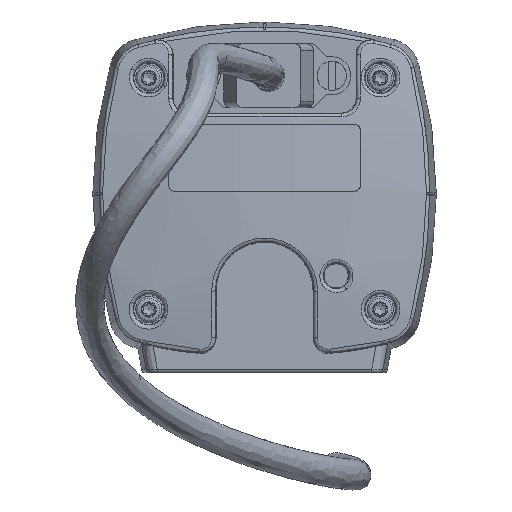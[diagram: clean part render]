
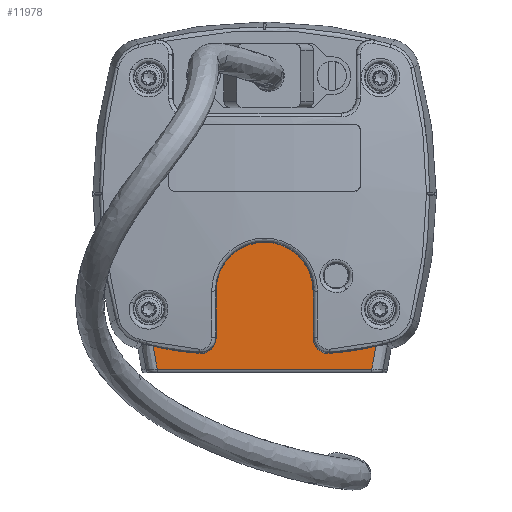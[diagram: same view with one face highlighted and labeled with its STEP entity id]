
A CAD part, left-side view. The second image highlights one B-rep face of the part: STEP entity #11978.
In plain terms, the highlighted planar face has unit normal (-1, 0, 0).
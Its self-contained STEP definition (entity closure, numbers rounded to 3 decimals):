
#643=ELLIPSE('',#13112,2.031,2.001);
#648=ELLIPSE('',#13126,2.031,2.001);
#649=ELLIPSE('',#13128,49.312,45.3);
#650=ELLIPSE('',#13129,49.312,45.3);
#1302=LINE('',#26356,#1908);
#1304=LINE('',#26364,#1910);
#1308=LINE('',#26925,#1914);
#1309=LINE('',#26927,#1915);
#1310=LINE('',#26929,#1916);
#1908=VECTOR('',#15540,1000.);
#1910=VECTOR('',#15550,1000.);
#1914=VECTOR('',#15588,10.);
#1915=VECTOR('',#15589,1000.);
#1916=VECTOR('',#15590,10.);
#2783=FACE_OUTER_BOUND('',#3598,.T.);
#3598=EDGE_LOOP('',(#8985,#8986,#8987,#8988,#8989,#8990,#8991,#8992,#8993,
#8994));
#4322=CIRCLE('',#13108,6.5);
#5206=VERTEX_POINT('',#26352);
#5207=VERTEX_POINT('',#26354);
#5208=VERTEX_POINT('',#26358);
#5209=VERTEX_POINT('',#26362);
#5210=VERTEX_POINT('',#26377);
#5223=VERTEX_POINT('',#26919);
#5224=VERTEX_POINT('',#26923);
#5225=VERTEX_POINT('',#26924);
#5226=VERTEX_POINT('',#26926);
#5227=VERTEX_POINT('',#26928);
#6569=EDGE_CURVE('',#5206,#5207,#1302,.T.);
#6571=EDGE_CURVE('',#5208,#5206,#4322,.T.);
#6573=EDGE_CURVE('',#5209,#5208,#1304,.T.);
#6575=EDGE_CURVE('',#5210,#5209,#643,.T.);
#6598=EDGE_CURVE('',#5207,#5223,#648,.T.);
#6599=EDGE_CURVE('',#5224,#5225,#1308,.T.);
#6600=EDGE_CURVE('',#5225,#5226,#1309,.T.);
#6601=EDGE_CURVE('',#5226,#5227,#1310,.T.);
#6602=EDGE_CURVE('',#5227,#5210,#649,.T.);
#6603=EDGE_CURVE('',#5223,#5224,#650,.T.);
#8985=ORIENTED_EDGE('',*,*,#6599,.T.);
#8986=ORIENTED_EDGE('',*,*,#6600,.T.);
#8987=ORIENTED_EDGE('',*,*,#6601,.T.);
#8988=ORIENTED_EDGE('',*,*,#6602,.T.);
#8989=ORIENTED_EDGE('',*,*,#6575,.T.);
#8990=ORIENTED_EDGE('',*,*,#6573,.T.);
#8991=ORIENTED_EDGE('',*,*,#6571,.T.);
#8992=ORIENTED_EDGE('',*,*,#6569,.T.);
#8993=ORIENTED_EDGE('',*,*,#6598,.T.);
#8994=ORIENTED_EDGE('',*,*,#6603,.T.);
#10793=PLANE('',#13127);
#11978=ADVANCED_FACE('',(#2783),#10793,.F.);
#13108=AXIS2_PLACEMENT_3D('',#26360,#15544,#15545);
#13112=AXIS2_PLACEMENT_3D('',#26379,#15553,#15554);
#13126=AXIS2_PLACEMENT_3D('',#26921,#15584,#15585);
#13127=AXIS2_PLACEMENT_3D('',#26922,#15586,#15587);
#13128=AXIS2_PLACEMENT_3D('',#26930,#15591,#15592);
#13129=AXIS2_PLACEMENT_3D('',#26931,#15593,#15594);
#15540=DIRECTION('',(0.,0.,-1.));
#15544=DIRECTION('center_axis',(-1.,0.,0.));
#15545=DIRECTION('ref_axis',(0.,1.,0.));
#15550=DIRECTION('',(0.,0.,1.));
#15553=DIRECTION('center_axis',(1.,0.,0.));
#15554=DIRECTION('ref_axis',(0.,-0.209,0.978));
#15584=DIRECTION('center_axis',(1.,0.,0.));
#15585=DIRECTION('ref_axis',(0.,0.209,0.978));
#15586=DIRECTION('center_axis',(1.,0.,0.));
#15587=DIRECTION('ref_axis',(0.,1.,0.));
#15588=DIRECTION('',(0.,-0.175,-0.985));
#15589=DIRECTION('',(0.,-1.,0.));
#15590=DIRECTION('',(0.,-0.175,0.985));
#15591=DIRECTION('center_axis',(1.,0.,0.));
#15592=DIRECTION('ref_axis',(0.,0.214,0.977));
#15593=DIRECTION('center_axis',(1.,0.,0.));
#15594=DIRECTION('ref_axis',(0.,-0.214,0.977));
#26352=CARTESIAN_POINT('',(-15.716,5.135,-13.));
#26354=CARTESIAN_POINT('',(-15.716,5.135,-19.373));
#26356=CARTESIAN_POINT('',(-15.716,5.135,-13.));
#26358=CARTESIAN_POINT('',(-15.716,-7.865,-13.));
#26360=CARTESIAN_POINT('Origin',(-15.716,-1.365,-13.));
#26362=CARTESIAN_POINT('',(-15.716,-7.865,-19.373));
#26364=CARTESIAN_POINT('',(-15.716,-7.865,-13.));
#26377=CARTESIAN_POINT('',(-15.716,-10.001,-21.385));
#26379=CARTESIAN_POINT('Origin',(-15.716,-9.867,-19.361));
#26919=CARTESIAN_POINT('',(-15.716,7.27,-21.385));
#26921=CARTESIAN_POINT('Origin',(-15.716,7.137,-19.361));
#26922=CARTESIAN_POINT('Origin',(-15.716,-24.365,-24.));
#26923=CARTESIAN_POINT('',(-15.716,13.547,-20.435));
#26924=CARTESIAN_POINT('',(-15.716,13.002,-23.5));
#26925=CARTESIAN_POINT('',(-15.716,13.547,-20.435));
#26926=CARTESIAN_POINT('',(-15.716,-15.732,-23.5));
#26927=CARTESIAN_POINT('',(-15.716,-24.365,-23.5));
#26928=CARTESIAN_POINT('',(-15.716,-16.277,-20.435));
#26929=CARTESIAN_POINT('',(-15.716,-15.732,-23.5));
#26930=CARTESIAN_POINT('Origin',(-15.716,-5.286,27.636));
#26931=CARTESIAN_POINT('Origin',(-15.716,2.555,27.636));
